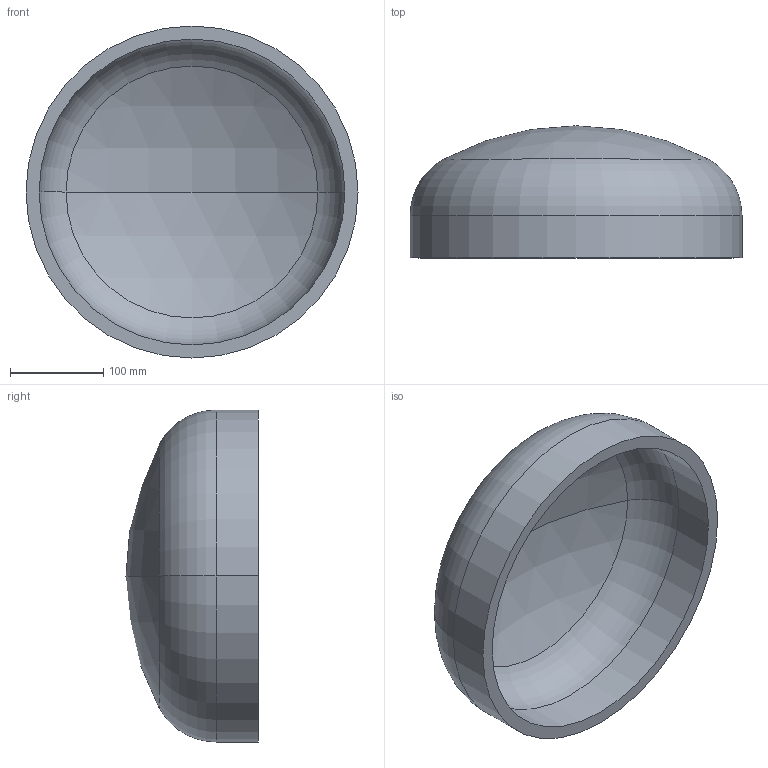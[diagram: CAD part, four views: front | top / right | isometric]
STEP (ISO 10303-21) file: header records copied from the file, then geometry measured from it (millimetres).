
FILE_DESCRIPTION (( 'STEP AP203' ), '1' );
FILE_NAME ('DIN 28013 Korbbogenform_-_Boden DIN 28013 - 355,6 x 45 - I - s=14.step', '2016-07-01T07:46:30', ( '' ), ( '' ), 'SwSTEP 2.0', 'SolidWorks 2013', '' );
FILE_SCHEMA (( 'CONFIG_CONTROL_DESIGN' ));
Length unit declared in the file: millimetre
Products named in the file (1): DIN 28013 Korbbogenform_-_Boden DIN 28013 - 355,6 x 45 - I - s=14
Bounding box: 355.6 x 141.5 x 355.6 mm (x, y, z)
Volume: 2507780.4 mm3; surface area: 373689.1 mm2
Topology: 1 solids, 1 shells, 13 faces, 24 edges, 14 vertices
Faces by surface type: torus 4, cylinder 4, sphere 4, plane 1
Entity records: 407 total; most frequent: DIRECTION 72, CARTESIAN_POINT 52, ORIENTED_EDGE 48, AXIS2_PLACEMENT_3D 34, EDGE_CURVE 24, CIRCLE 20, EDGE_LOOP 14, VERTEX_POINT 14
